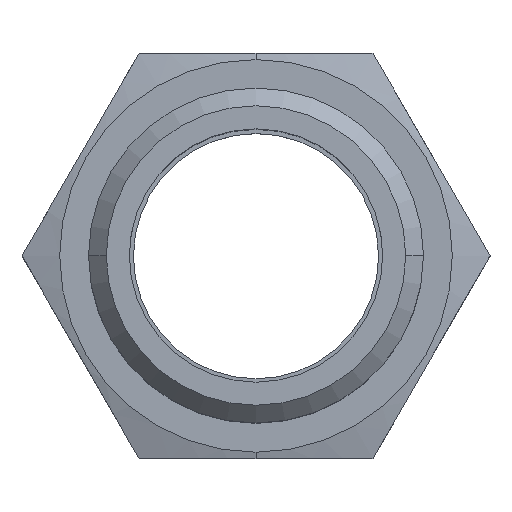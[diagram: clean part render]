
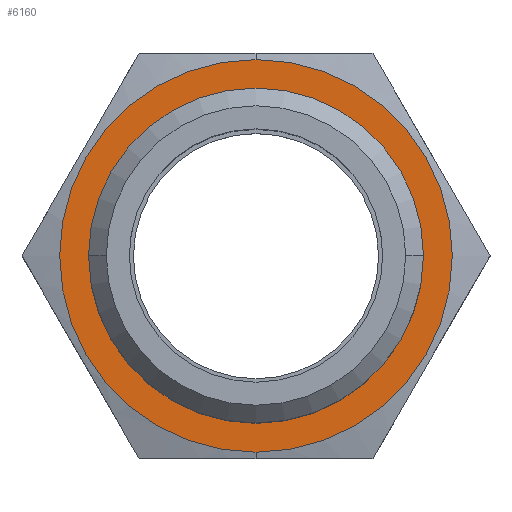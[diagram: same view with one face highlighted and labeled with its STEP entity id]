
A CAD part, top view. The second image highlights one B-rep face of the part: STEP entity #6160.
In plain terms, the highlighted planar face has unit normal (0, 0, 1).
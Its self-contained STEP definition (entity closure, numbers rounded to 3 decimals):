
#5810=CARTESIAN_POINT('',(0.,0.,8.5));
#5820=DIRECTION('',(0.,0.,1.));
#5830=DIRECTION('',(1.,0.,0.));
#5840=AXIS2_PLACEMENT_3D('',#5810,#5820,#5830);
#5850=PLANE('',#5840);
#5860=CARTESIAN_POINT('',(29.234,53.52,8.5));
#5870=DIRECTION('',(0.,0.,-1.));
#5880=DIRECTION('',(0.,1.,0.));
#5890=AXIS2_PLACEMENT_3D('',#5860,#5870,#5880);
#5900=CIRCLE('',#5890,15.5);
#5910=CARTESIAN_POINT('',(29.234,69.02,8.5));
#5920=VERTEX_POINT('',#5910);
#5930=CARTESIAN_POINT('',(29.234,38.02,8.5));
#5940=VERTEX_POINT('',#5930);
#5950=EDGE_CURVE('',#5920,#5940,#5900,.T.);
#5960=ORIENTED_EDGE('',*,*,#5950,.F.);
#5970=EDGE_CURVE('',#5940,#5920,#5900,.T.);
#5980=ORIENTED_EDGE('',*,*,#5970,.F.);
#5990=EDGE_LOOP('',(#5980,#5960));
#6000=FACE_OUTER_BOUND('',#5990,.T.);
#6010=CARTESIAN_POINT('',(29.234,53.52,8.5));
#6020=DIRECTION('',(0.,0.,1.));
#6030=DIRECTION('',(1.,0.,0.));
#6040=AXIS2_PLACEMENT_3D('',#6010,#6020,#6030);
#6050=CIRCLE('',#6040,13.221);
#6060=CARTESIAN_POINT('',(42.454,53.52,8.5));
#6070=VERTEX_POINT('',#6060);
#6080=CARTESIAN_POINT('',(16.013,53.52,8.5));
#6090=VERTEX_POINT('',#6080);
#6100=EDGE_CURVE('',#6070,#6090,#6050,.T.);
#6110=ORIENTED_EDGE('',*,*,#6100,.F.);
#6120=EDGE_CURVE('',#6090,#6070,#6050,.T.);
#6130=ORIENTED_EDGE('',*,*,#6120,.F.);
#6140=EDGE_LOOP('',(#6130,#6110));
#6150=FACE_BOUND('',#6140,.T.);
#6160=ADVANCED_FACE('',(#6000,#6150),#5850,.T.);
